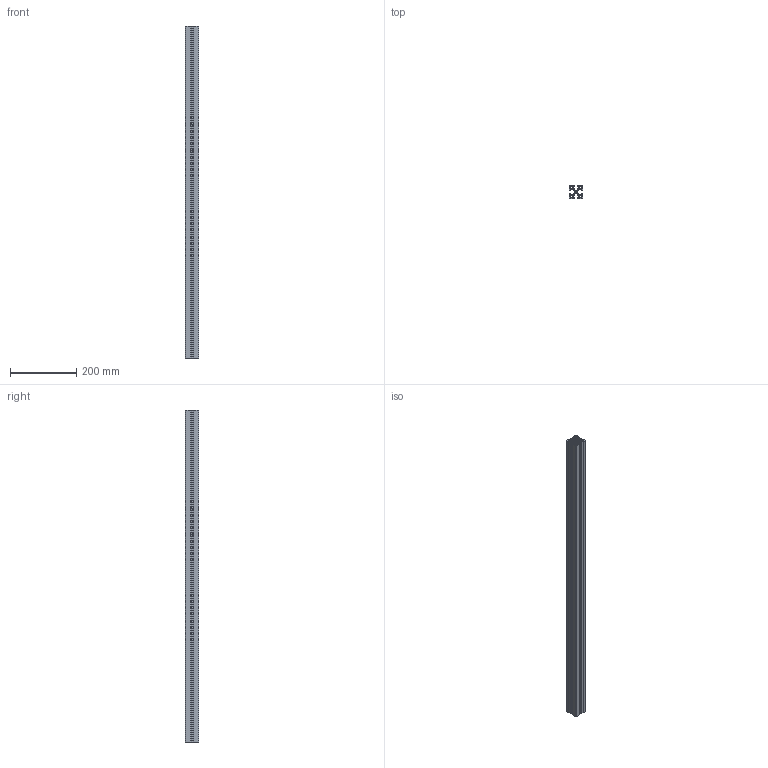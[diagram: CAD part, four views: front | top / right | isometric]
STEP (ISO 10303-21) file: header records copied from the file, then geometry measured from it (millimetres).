
FILE_DESCRIPTION((''),'2;1');
FILE_NAME('\\Dtp_2\share\iriguchi2\M8フレーム\AFS-4040L-8.stp','2014-12-01T11:53:38',('AMS8'),(''),'Autodesk Inventor 2008','Autodesk Inventor 2008','');
FILE_SCHEMA(('AUTOMOTIVE_DESIGN { 1 0 10303 214 1 1 1 1 }'));
Length unit declared in the file: millimetre
Products named in the file (1): Part48
Bounding box: 40 x 40 x 1000 mm (x, y, z)
Volume: 608349.6 mm3; surface area: 480999.4 mm2
Topology: 1 solids, 1 shells, 251 faces, 747 edges, 498 vertices
Faces by surface type: cylinder 145, plane 106
Full cylindrical faces by diameter (mm): 6.8 x1
Entity records: 8572 total; most frequent: DIRECTION 1540, CARTESIAN_POINT 1496, ORIENTED_EDGE 1492, EDGE_CURVE 746, AXIS2_PLACEMENT_3D 542, VERTEX_POINT 498, VECTOR 456, LINE 456
